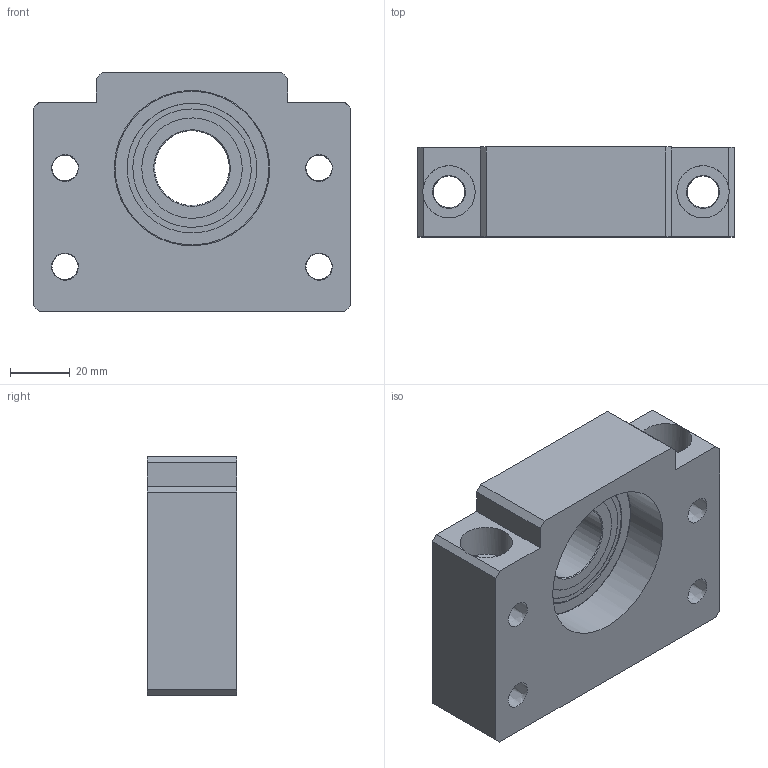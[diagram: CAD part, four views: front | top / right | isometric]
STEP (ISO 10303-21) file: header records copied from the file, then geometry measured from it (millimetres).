
FILE_DESCRIPTION( ('This file contains a STEP AP42 implementation' ,'as created by ZW3D STEP Interface translator.') ,'2;1' );
FILE_NAME( '36fadf20-4856-411e-99ab-818b81607c76.stp' ,'171114.133436', (''), ('ZWCAD Software Co.'), 'Version 1.0', 'ZW3D to STEP translator', '' );
FILE_SCHEMA( ('CONFIG_CONTROL_DESIGN') );
Length unit declared in the file: millimetre
Products named in the file (4): 0; FSFBF-25; _BF 25 Part2; _BF 25 Part1
Assembly tree (2 placements, depth 2):
  0
  FSFBF-25
    _BF 25 Part2
    _BF 25 Part1
Bounding box: 106 x 30 x 80 mm (x, y, z)
Volume: 180351.9 mm3; surface area: 40957 mm2
Topology: 2 solids, 2 shells, 51 faces, 132 edges, 87 vertices
Faces by surface type: bspline 51
Entity records: 2443 total; most frequent: CARTESIAN_POINT 1497, ORIENTED_EDGE 264, EDGE_CURVE 132, VERTEX_POINT 87, B_SPLINE_CURVE_WITH_KNOTS 85, EDGE_LOOP 77, FACE_OUTER_BOUND 51, ADVANCED_FACE 51
